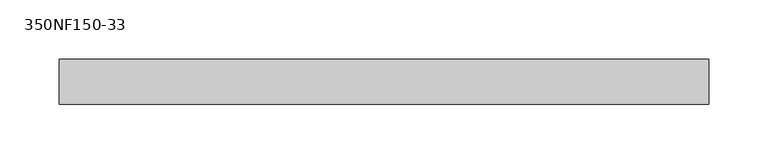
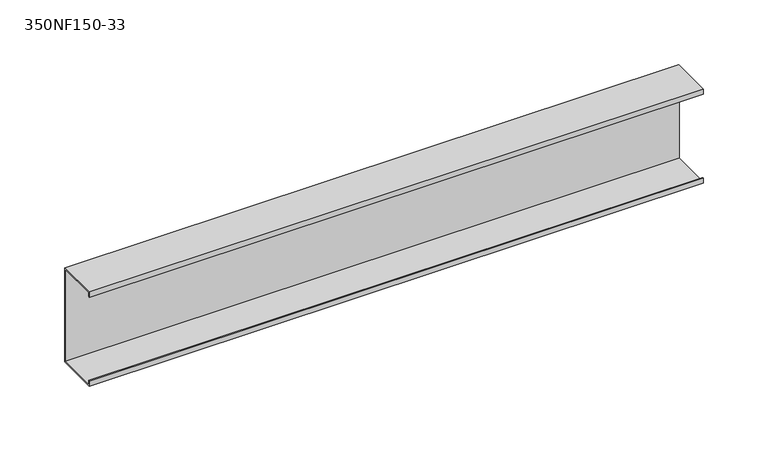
"""IFC4 building model written with IfcOpenShell, lengths in millimetres: beam geometry, BIMSF-SSMA-S : 350NF150-33."""

from ifc_helpers import new_model, si_unit, frame, origin, place, context, project, spatial, polyline, outline, extrude, source, transform, mapped, element, save


def beam_350nf150_33_bbf778cd(model_context):
    return source(origin(), model_context, "Body", "SweptSolid", [
        extrude(outline(polyline([(19.05, 44.45), (19.05, -44.45), (-19.05, -44.45), (-19.05, -39.6748), (-18.1676842, -39.6748), (-18.1676842, -43.5676842), (18.1676842, -43.5676842), (18.1676842, 43.5676842), (-18.1676842, 43.5676842), (-18.1676842, 39.6748), (-19.05, 39.6748), (-19.05, 44.45), (19.05, 44.45)])), frame((-274.2245892, 0.0, 0.0), z_axis=(1.0, 0.0, 0.0), x_axis=(0.0, 1.0, 0.0)), (0.0, 0.0, 1.0), 548.4491785),
    ])


if __name__ == "__main__":
    model = new_model("IFC4")
    model_context = context("Model", 3, world=origin())
    ifc_project = project(units=[si_unit("LENGTHUNIT", "METRE", prefix="MILLI")], contexts=[model_context])
    site = spatial("IfcSite", under=ifc_project)
    building = spatial("IfcBuilding", under=site)
    placement = place(None, origin())
    beam_350nf150_33_shape = beam_350nf150_33_bbf778cd(model_context)
    element("IfcBeam", 1, ObjectType="BIMSF-SSMA-S : 350NF150-33", at=placement, inside=building, context=model_context, shape_type="MappedRepresentation", body=[
        mapped(beam_350nf150_33_shape, transform((0.0, 0.0, 0.0), x_axis=(1.0, 0.0, 0.0), y_axis=(0.0, 1.0, 0.0), z_axis=(0.0, 0.0, 1.0))),
    ])
    save(model, "model.ifc")
